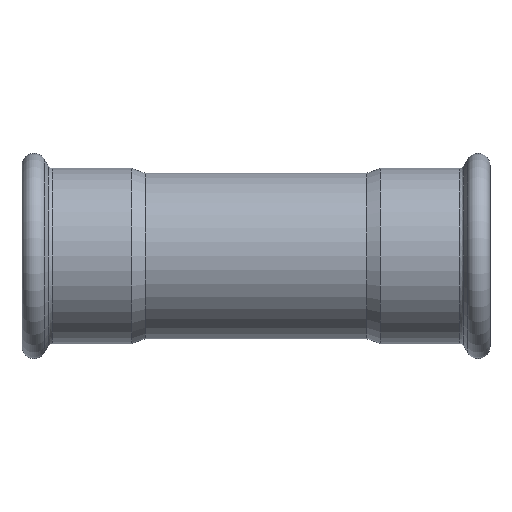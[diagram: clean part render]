
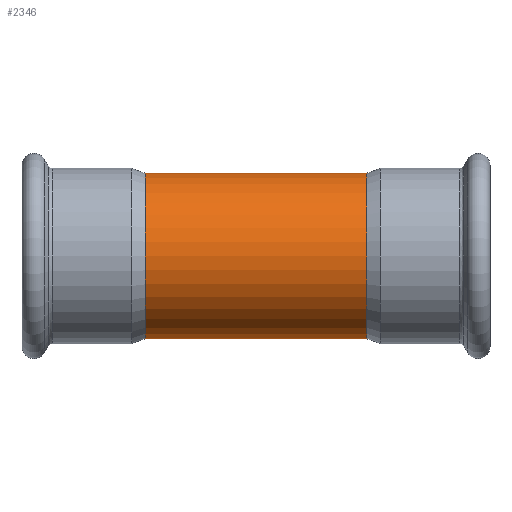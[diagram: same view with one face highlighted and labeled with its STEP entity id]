
A CAD part, front view. The second image highlights one B-rep face of the part: STEP entity #2346.
In plain terms, the highlighted cylindrical face has radius 38.05 mm (diameter 76.1 mm), a full revolution.
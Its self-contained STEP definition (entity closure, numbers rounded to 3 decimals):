
#2123=CARTESIAN_POINT('',(0.,31.15,21.851));
#2124=VERTEX_POINT('',#2123);
#2214=CARTESIAN_POINT('',(0.,31.15,21.851));
#2215=CARTESIAN_POINT('',(1.318,31.15,21.851));
#2216=CARTESIAN_POINT('',(3.073,31.252,21.707));
#2217=CARTESIAN_POINT('',(5.641,31.59,21.212));
#2218=CARTESIAN_POINT('',(7.714,31.974,20.635));
#2219=CARTESIAN_POINT('',(10.097,32.571,19.684));
#2220=CARTESIAN_POINT('',(11.961,33.147,18.695));
#2221=CARTESIAN_POINT('',(13.364,33.634,17.798));
#2222=CARTESIAN_POINT('',(15.036,34.253,16.598));
#2223=CARTESIAN_POINT('',(16.575,34.894,15.219));
#2224=CARTESIAN_POINT('',(18.035,35.549,13.585));
#2225=CARTESIAN_POINT('',(18.963,35.982,12.401));
#2226=CARTESIAN_POINT('',(20.023,36.496,10.816));
#2227=CARTESIAN_POINT('',(20.807,36.892,9.363));
#2228=CARTESIAN_POINT('',(21.699,37.352,7.351));
#2229=CARTESIAN_POINT('',(22.309,37.676,5.514));
#2230=CARTESIAN_POINT('',(22.726,37.901,3.467));
#2231=CARTESIAN_POINT('',(22.871,37.98,2.367));
#2232=CARTESIAN_POINT('',(23.022,38.062,0.704));
#2233=CARTESIAN_POINT('',(23.022,38.062,-1.671));
#2234=CARTESIAN_POINT('',(22.577,37.82,-4.421));
#2235=CARTESIAN_POINT('',(22.002,37.513,-6.422));
#2236=CARTESIAN_POINT('',(21.624,37.314,-7.46));
#2237=CARTESIAN_POINT('',(21.001,36.99,-8.986));
#2238=CARTESIAN_POINT('',(19.929,36.444,-11.071));
#2239=CARTESIAN_POINT('',(18.471,35.746,-13.078));
#2240=CARTESIAN_POINT('',(17.029,35.096,-14.719));
#2241=CARTESIAN_POINT('',(15.475,34.429,-16.247));
#2242=CARTESIAN_POINT('',(13.49,33.665,-17.756));
#2243=CARTESIAN_POINT('',(11.701,33.067,-18.83));
#2244=CARTESIAN_POINT('',(10.709,32.767,-19.344));
#2245=CARTESIAN_POINT('',(9.191,32.336,-20.064));
#2246=CARTESIAN_POINT('',(6.915,31.785,-20.927));
#2247=CARTESIAN_POINT('',(3.516,31.271,-21.68));
#2248=CARTESIAN_POINT('',(0.296,31.105,-21.916));
#2249=CARTESIAN_POINT('',(-2.047,31.195,-21.788));
#2250=CARTESIAN_POINT('',(-3.784,31.348,-21.566));
#2251=CARTESIAN_POINT('',(-5.21,31.527,-21.305));
#2252=CARTESIAN_POINT('',(-7.45,31.914,-20.725));
#2253=CARTESIAN_POINT('',(-9.457,32.4,-19.963));
#2254=CARTESIAN_POINT('',(-10.958,32.841,-19.218));
#2255=CARTESIAN_POINT('',(-11.939,33.147,-18.687));
#2256=CARTESIAN_POINT('',(-13.491,33.666,-17.755));
#2257=CARTESIAN_POINT('',(-15.257,34.345,-16.413));
#2258=CARTESIAN_POINT('',(-16.85,35.018,-14.902));
#2259=CARTESIAN_POINT('',(-17.858,35.468,-13.795));
#2260=CARTESIAN_POINT('',(-18.539,35.784,-12.942));
#2261=CARTESIAN_POINT('',(-19.189,36.091,-12.063));
#2262=CARTESIAN_POINT('',(-19.977,36.473,-10.885));
#2263=CARTESIAN_POINT('',(-20.945,36.961,-9.115));
#2264=CARTESIAN_POINT('',(-21.797,37.404,-7.089));
#2265=CARTESIAN_POINT('',(-22.547,37.803,-4.606));
#2266=CARTESIAN_POINT('',(-22.977,38.038,-1.949));
#2267=CARTESIAN_POINT('',(-23.022,38.062,0.283));
#2268=CARTESIAN_POINT('',(-22.921,38.007,1.95));
#2269=CARTESIAN_POINT('',(-22.754,37.916,3.329));
#2270=CARTESIAN_POINT('',(-22.449,37.751,4.829));
#2271=CARTESIAN_POINT('',(-22.005,37.514,6.431));
#2272=CARTESIAN_POINT('',(-21.439,37.217,7.984));
#2273=CARTESIAN_POINT('',(-20.213,36.587,10.613));
#2274=CARTESIAN_POINT('',(-18.802,35.895,12.709));
#2275=CARTESIAN_POINT('',(-17.453,35.288,14.237));
#2276=CARTESIAN_POINT('',(-16.894,35.041,14.835));
#2277=CARTESIAN_POINT('',(-15.951,34.634,15.778));
#2278=CARTESIAN_POINT('',(-14.375,33.998,17.115));
#2279=CARTESIAN_POINT('',(-12.823,33.44,18.163));
#2280=CARTESIAN_POINT('',(-11.384,32.969,19.001));
#2281=CARTESIAN_POINT('',(-9.893,32.52,19.765));
#2282=CARTESIAN_POINT('',(-7.715,31.974,20.634));
#2283=CARTESIAN_POINT('',(-5.641,31.59,21.212));
#2284=CARTESIAN_POINT('',(-3.073,31.252,21.707));
#2285=CARTESIAN_POINT('',(-1.318,31.15,21.851));
#2286=CARTESIAN_POINT('',(0.,31.15,21.851));
#2287=CARTESIAN_POINT('',(0.,31.15,21.851));
#2288=CARTESIAN_POINT('',(0.,31.15,21.851));
#2289=CARTESIAN_POINT('',(0.,31.15,21.851));
#2290=B_SPLINE_CURVE_WITH_KNOTS('',3,(#2214,#2215,#2216,#2217,#2218,#2219,#2220,#2221,#2222,#2223,#2224,#2225,#2226,#2227,#2228,#2229,#2230,#2231,#2232,#2233,#2234,#2235,#2236,#2237,#2238,#2239,#2240,#2241,#2242,#2243,#2244,#2245,#2246,#2247,#2248,#2249,#2250,#2251,#2252,#2253,#2254,#2255,#2256,#2257,#2258,#2259,#2260,#2261,#2262,#2263,#2264,#2265,#2266,#2267,#2268,#2269,#2270,#2271,#2272,#2273,#2274,#2275,#2276,#2277,#2278,#2279,#2280,#2281,#2282,#2283,#2284,#2285,#2286,#2287,#2288,#2289),.UNSPECIFIED.,.T.,.U.,(4,1,1,1,1,1,1,1,1,1,1,1,1,1,1,1,1,1,1,1,1,1,1,1,1,1,1,1,1,1,1,1,1,1,1,1,1,1,1,1,1,1,1,1,1,1,1,1,1,1,1,1,1,1,1,1,1,1,1,1,1,1,1,1,1,1,1,1,1,1,3,4),(-12.983,-12.635,-12.519,-12.288,-12.056,-11.824,-11.708,-11.592,-11.244,-11.128,-10.974,-10.819,-10.587,-10.51,-10.201,-10.046,-9.931,-9.892,-9.583,-9.274,-9.119,-9.003,-8.965,-8.655,-8.346,-8.269,-8.037,-7.728,-7.573,-7.458,-7.419,-7.11,-6.801,-6.492,-6.26,-6.182,-6.028,-5.873,-5.564,-5.448,-5.41,-5.255,-4.946,-4.791,-4.637,-4.521,-4.482,-4.328,-4.122,-3.916,-3.709,-3.4,-3.169,-3.091,-2.937,-2.782,-2.666,-2.473,-2.318,-1.855,-1.768,-1.739,-1.623,-1.391,-1.159,-1.101,-0.927,-0.696,-0.464,-0.348,0.0,0.),.UNSPECIFIED.);
#2291=EDGE_CURVE('',#2124,#2124,#2290,.T.);
#2316=CARTESIAN_POINT('',(0.,0.,0.0));
#2317=DIRECTION('',(1.0,0.,0.0));
#2318=DIRECTION('',(0.0,1.0,0.0));
#2319=AXIS2_PLACEMENT_3D('',#2316,#2317,#2318);
#2320=CYLINDRICAL_SURFACE('',#2319,38.05);
#2321=CARTESIAN_POINT('',(-50.966,38.05,0.0));
#2322=VERTEX_POINT('',#2321);
#2323=CARTESIAN_POINT('',(-50.966,0.,0.0));
#2324=DIRECTION('',(1.0,0.0,0.0));
#2325=DIRECTION('',(0.0,1.0,0.0));
#2326=AXIS2_PLACEMENT_3D('',#2323,#2324,#2325);
#2327=CIRCLE('',#2326,38.05);
#2328=EDGE_CURVE('',#2322,#2322,#2327,.T.);
#2329=ORIENTED_EDGE('',*,*,#2328,.T.);
#2330=EDGE_LOOP('',(#2329));
#2331=FACE_OUTER_BOUND('',#2330,.T.);
#2332=CARTESIAN_POINT('',(50.966,38.05,0.0));
#2333=VERTEX_POINT('',#2332);
#2334=CARTESIAN_POINT('',(50.966,0.,0.0));
#2335=DIRECTION('',(1.0,0.0,0.0));
#2336=DIRECTION('',(0.0,1.0,0.0));
#2337=AXIS2_PLACEMENT_3D('',#2334,#2335,#2336);
#2338=CIRCLE('',#2337,38.05);
#2339=EDGE_CURVE('',#2333,#2333,#2338,.T.);
#2340=ORIENTED_EDGE('',*,*,#2339,.F.);
#2341=EDGE_LOOP('',(#2340));
#2342=FACE_BOUND('',#2341,.T.);
#2343=ORIENTED_EDGE('',*,*,#2291,.F.);
#2344=EDGE_LOOP('',(#2343));
#2345=FACE_BOUND('',#2344,.T.);
#2346=ADVANCED_FACE('',(#2331,#2342,#2345),#2320,.T.);
